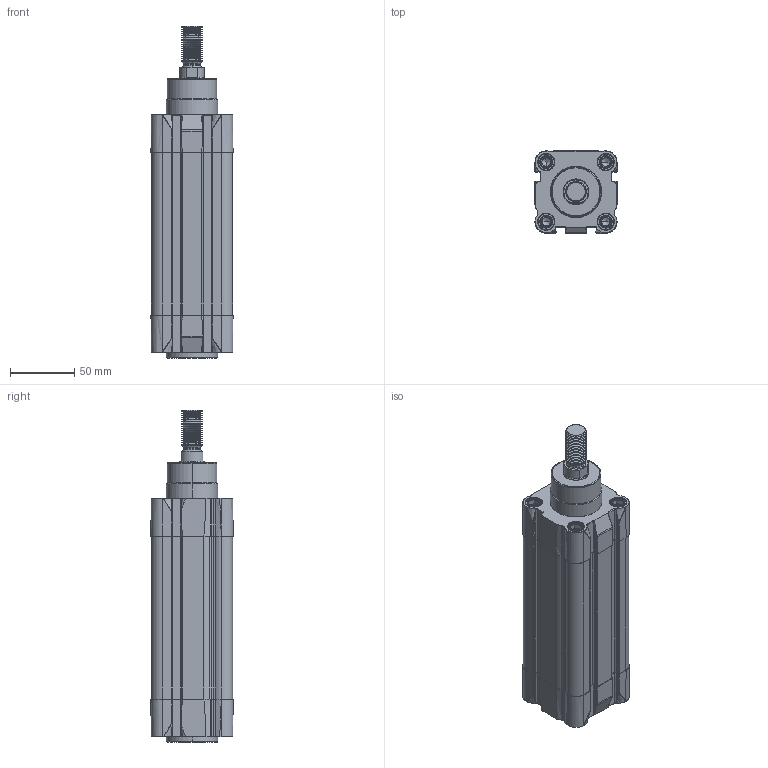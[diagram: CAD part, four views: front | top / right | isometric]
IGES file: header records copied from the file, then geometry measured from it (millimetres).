
Start section: SolidWorks IGES file using analytic representation for surfaces
Global section: file name: c:\CATALO3D\IGS\TTX50.0080.IGS; native system: SolidWorks 2005 by SolidWorks Corporation; preprocessor: SolidWorks 2005 by SolidWorks Corporation; author: luigip; date: 050923.143400; units: millimetre
Bounding box: 64 x 64.1 x 259 mm (x, y, z)
Surface area: 150815.6 mm2 (no closed solid volume)
Topology: 0 solids, 0 shells, 1434 faces, 16132 edges, 16114 vertices
Faces by surface type: revolution 902, bspline 532
